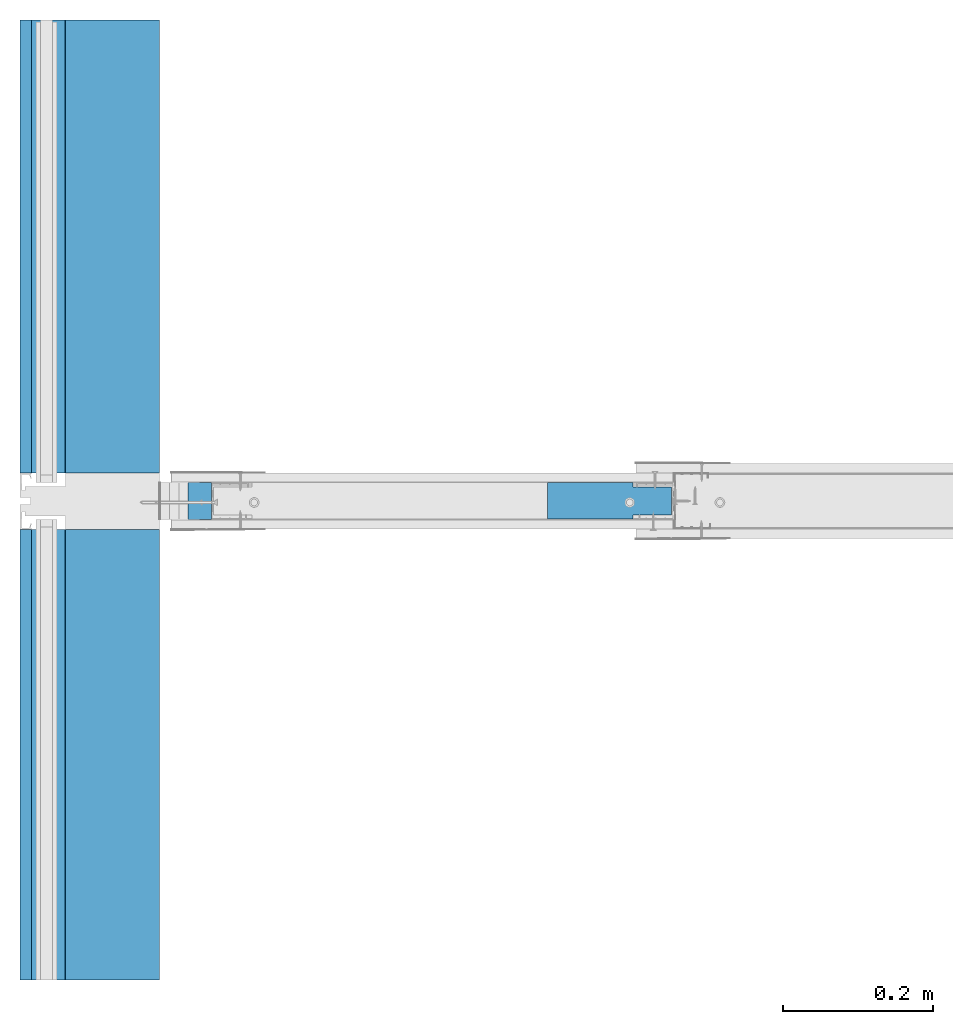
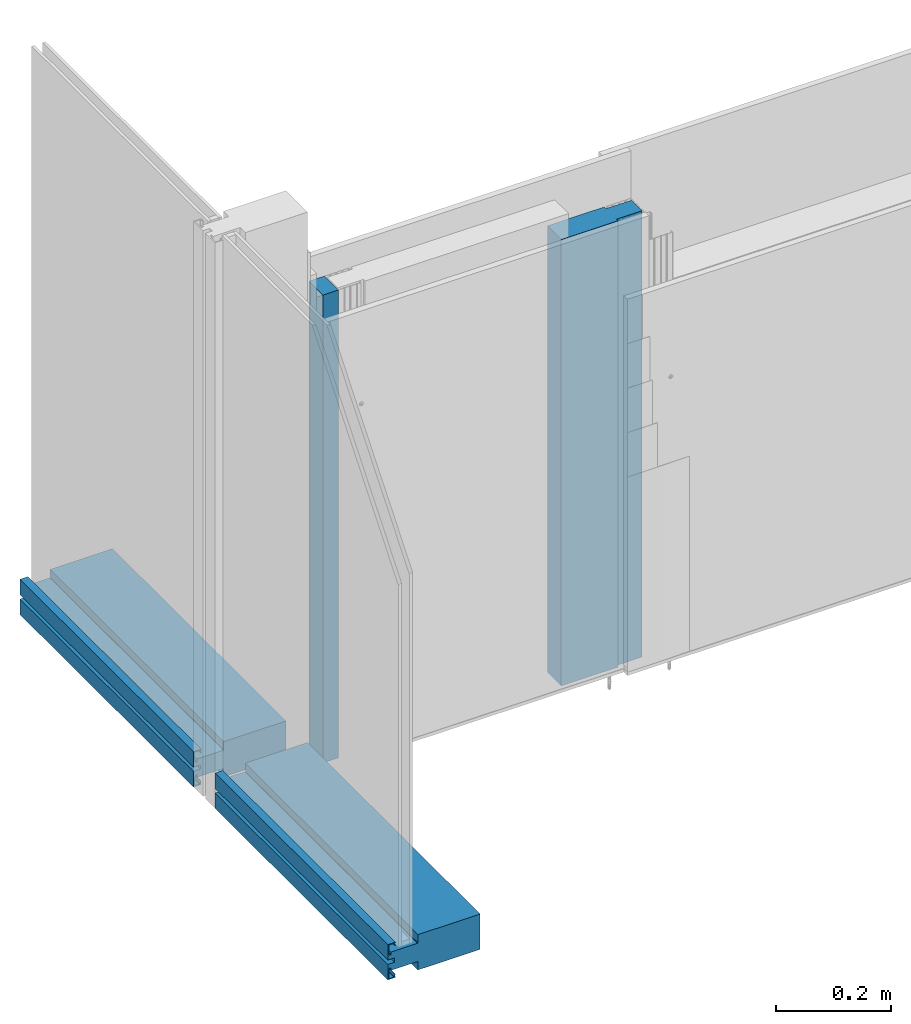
# One storey, part 4 of 42: 4 walls.
"""IFC2X3 building model written with IfcOpenShell, lengths in millimetres."""

from ifc_helpers import new_model, entity, si_unit, converted_unit, direction, frame, origin, origin_with_axes, place, context, project, spatial, faceted_brep, element, save


model = new_model("IFC2X3")

# Units and contexts
model_context = context("Model", 3, precision=1e-05, world=origin(), true_north=direction((0.0, 1.0, 0.0)))
ifc_project = project(units=[si_unit("LENGTHUNIT", "METRE", prefix="MILLI"), si_unit("AREAUNIT", "SQUARE_METRE"), si_unit("VOLUMEUNIT", "CUBIC_METRE"), converted_unit("PLANEANGLEUNIT", "DEGREE", entity("IfcPlaneAngleMeasure", 0.01745), si_unit("PLANEANGLEUNIT", "RADIAN"), dimensions=[0, 0, 0, 0, 0, 0, 0]), si_unit("SOLIDANGLEUNIT", "STERADIAN"), si_unit("MASSUNIT", "GRAM"), si_unit("TIMEUNIT", "SECOND"), si_unit("THERMODYNAMICTEMPERATUREUNIT", "DEGREE_CELSIUS"), si_unit("LUMINOUSINTENSITYUNIT", "LUMEN")], contexts=[model_context])

# Site, building, storey
site_placement = place(None, origin_with_axes())
site = spatial("IfcSite", under=ifc_project, at=site_placement, Name="Default Site", CompositionType="ELEMENT")
building_placement = place(site_placement, origin_with_axes())
building = spatial("IfcBuilding", under=site, at=building_placement, Name="Default Building", CompositionType="ELEMENT")
storey_placement = place(building_placement, origin_with_axes())
storey = spatial("IfcBuildingStorey", under=building, at=storey_placement, Name="Default Building Storey", CompositionType="ELEMENT", Elevation=0.0)

# Walls
wall_1_placement = place(storey_placement, frame((2831.260372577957, -1438.097225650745, 7.67454872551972), z_axis=(-6.858158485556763e-13, 7.620176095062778e-14, 1.0), x_axis=(-1.0, 5.338611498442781e-16, -6.858158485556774e-13)))
element("IfcWall", 1, at=wall_1_placement, inside=storey, Name="Wełna mineralna szklana lub skalna ISOVER", context=model_context, shape_type="Brep", body=[
    faceted_brep([(-161.2775660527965, -3473.633223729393, -2.075551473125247), (-161.2775660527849, -3473.633223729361, 944.7094770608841), (-109.9235473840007, -3473.633223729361, 944.7094770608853), (-109.9235473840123, -3473.633223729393, -2.07555147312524), (-109.9235473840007, -3479.633223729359, 944.7094770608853), (-109.9235473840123, -3479.633223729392, -2.075551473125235), (-161.2775660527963, -3436.833223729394, -2.075551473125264), (-161.2775660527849, -3436.83322372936, 944.7094770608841), (-109.9235473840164, -3436.833223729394, -2.075551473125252), (-109.9235473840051, -3436.83322372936, 944.7094770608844), (-109.9235473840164, -3431.283223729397, -2.075551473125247), (3.979796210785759, -3431.283223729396, -2.075551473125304), (3.979796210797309, -3431.283223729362, 944.7094770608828), (-109.9235473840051, -3431.283223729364, 944.7094770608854), (3.979796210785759, -3479.633223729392, -2.075551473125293), (3.97979621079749, -3479.633223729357, 944.7094770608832)], [[[0, 1, 2, 3]], [[3, 2, 4, 5]], [[1, 0, 6, 7]], [[7, 6, 8, 9]], [[10, 11, 12, 13]], [[9, 8, 10, 13]], [[3, 5, 14, 11, 10, 8, 6, 0]], [[4, 15, 14, 5]], [[15, 4, 2, 1, 7, 9, 13, 12]], [[14, 15, 12, 11]]]),
])
wall_2_placement = place(storey_placement, frame((2360.314282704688, 2016.879979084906, -185.4597315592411), z_axis=(-1.0, 5.82867087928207e-16, -8.068721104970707e-16), x_axis=(9.77677744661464e-16, -3.256321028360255e-31, -1.0)))
element("IfcWall", 2, at=wall_2_placement, inside=storey, Name="Wełna mineralna szklana lub skalna ISOVER", context=model_context, shape_type="Brep", body=[
    faceted_brep([(-195.4581498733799, -24.6461696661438, -19.6627632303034), (-195.4581498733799, 24.14398100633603, -19.66276323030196), (-1187.843757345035, 24.14398100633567, -19.66276323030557), (-1187.843757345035, -24.64616966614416, -19.66276323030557), (-195.45814987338, 24.14398100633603, 11.37091977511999), (-1187.843757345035, 24.14398100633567, 11.37091977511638), (-195.45814987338, -24.6461696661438, 11.37091977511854), (-1187.843757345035, -24.64616966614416, 11.37091977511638)], [[[0, 1, 2, 3]], [[1, 4, 5, 2]], [[4, 6, 7, 5]], [[6, 0, 3, 7]], [[7, 3, 2, 5]], [[0, 6, 4, 1]]]),
])
wall_3_placement = place(storey_placement, frame((2125.025133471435, 2054.549148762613, 75.00157344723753), z_axis=(9.892816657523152e-15, 1.0, -5.47225069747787e-14), x_axis=(-1.096458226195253e-13, -5.472250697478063e-14, -1.0)))
element("IfcWall", 3, at=wall_3_placement, inside=storey, Name="ELEWACJA", context=model_context, shape_type="Brep", body=[
    faceted_brep([(75.00157344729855, -1.110029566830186e-27, 602.9442692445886), (75.00157344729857, -15.00000000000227, 602.9442692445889), (74.50158889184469, -15.50000000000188, 602.9442692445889), (73.20158862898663, -15.50000000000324, 602.9442692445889), (73.50158862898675, -13.70000000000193, 602.9442692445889), (72.701589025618, -13.70000000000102, 602.9442692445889), (67.80680097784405, -15.48155715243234, 602.9442692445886), (67.39637680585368, -14.35392600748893, 602.9442692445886), (72.48999664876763, -12.5000000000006, 602.9442692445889), (72.90158889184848, -12.5000000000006, 602.9442692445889), (73.20158889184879, -12.20000000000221, 602.9442692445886), (73.20158889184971, -3.000000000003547, 602.9442692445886), (72.20158889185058, -2.000000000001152, 602.9442692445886), (68.75346226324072, -1.999999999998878, 602.9442692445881), (57.3015794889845, -2.500000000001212, 602.9442692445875), (52.30158250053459, -2.500000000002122, 602.9442692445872), (51.30158250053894, -3.500003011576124, 602.9442692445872), (51.30159153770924, -6.500816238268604, 602.9442692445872), (57.00160295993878, -6.500816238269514, 602.9442692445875), (57.00160295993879, -60.50081623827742, 602.9442692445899), (75.0007867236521, -60.50081623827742, 602.9442692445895), (75.0007867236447, -185.5008162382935, 602.9442692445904), (0.0007867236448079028, -185.5008162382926, 602.9442692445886), (0.0007867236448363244, -60.50081623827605, 602.9442692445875), (17.49997048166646, -60.50081623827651, 602.9442692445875), (17.99997048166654, -60.00081624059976, 602.9442692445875), (17.99997051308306, -6.500816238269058, 602.9442692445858), (23.69999094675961, -6.500816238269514, 602.9442692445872), (23.69999094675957, -3.500003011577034, 602.9442692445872), (22.69999094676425, -2.500000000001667, 602.9442692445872), (17.69999395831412, -2.500000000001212, 602.9442692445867), (6.248111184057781, -1.999999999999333, 602.9442692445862), (2.799984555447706, -2.000000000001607, 602.9442692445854), (1.799984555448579, -3.000000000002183, 602.9442692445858), (1.799984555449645, -12.20000000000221, 602.9442692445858), (2.099984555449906, -12.50000000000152, 602.9442692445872), (2.51157679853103, -12.50000000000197, 602.9442692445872), (7.605196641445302, -14.35392600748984, 602.9442692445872), (7.194772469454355, -15.48155715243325, 602.9442692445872), (2.299984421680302, -13.70000000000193, 602.9442692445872), (1.499984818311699, -13.70000000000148, 602.9442692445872), (1.799984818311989, -15.50000000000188, 602.9442692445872), (-4.263256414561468e-14, -15.50000000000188, 602.9442692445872), (-1.421085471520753e-14, -1.110029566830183e-27, 602.9442692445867), (32.99996582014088, -1.818989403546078e-12, 602.9442692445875), (32.99996582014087, -13.80000000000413, 602.9442692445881), (42.00157193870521, -13.80000000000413, 602.9442692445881), (42.00157193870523, -1.110029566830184e-27, 602.9442692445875), (7.605196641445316, -14.35392600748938, 9.094947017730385e-13), (7.194772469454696, -15.48155715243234, 9.094947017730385e-13), (0.0007867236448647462, -60.50081623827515, 9.094947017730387e-13), (17.49997048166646, -60.50081623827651, 9.094947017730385e-13), (57.00160295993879, -6.500816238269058, -3.335958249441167e-28), (57.0016029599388, -60.50081623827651, 9.094947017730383e-13), (6.248111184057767, -1.999999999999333, 4.547473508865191e-13), (2.799984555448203, -2.000000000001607, -9.629899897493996e-30), (23.69999094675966, -6.500816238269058, -4.547473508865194e-13), (23.69999094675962, -3.500003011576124, 4.547473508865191e-13), (75.00078672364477, -185.5008162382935, 9.094947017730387e-13), (0.0007867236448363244, -185.5008162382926, 7.457534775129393e-28), (2.51157679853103, -12.50000000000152, 4.547473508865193e-13), (52.3015825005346, -2.500000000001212, -4.547473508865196e-13), (51.30158250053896, -3.500003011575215, -4.547473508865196e-13), (1.799984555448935, -3.000000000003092, 7.012307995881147e-31), (51.30159153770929, -6.500816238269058, -4.547473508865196e-13), (2.299984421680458, -13.70000000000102, 4.547473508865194e-13), (72.20158889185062, -2.000000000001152, 9.094947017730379e-13), (68.75346226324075, -1.999999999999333, 4.547473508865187e-13), (17.99997048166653, -60.00081624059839, 9.094947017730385e-13), (17.99997051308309, -6.500816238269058, -4.547473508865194e-13), (1.799984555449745, -12.20000000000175, -9.094947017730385e-13), (2.099984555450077, -12.5000000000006, 4.547473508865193e-13), (1.499984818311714, -13.70000000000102, 4.547473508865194e-13), (57.30157948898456, -2.500000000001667, 4.547473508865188e-13), (17.69999395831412, -2.500000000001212, 4.547473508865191e-13), (22.69999094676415, -2.500000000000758, 4.547473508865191e-13), (75.00078672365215, -60.50081623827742, 9.09494701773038e-13), (73.20158889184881, -12.20000000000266, 9.094947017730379e-13), (73.20158889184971, -3.000000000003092, 9.094947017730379e-13), (72.90158889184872, -12.50000000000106, 1.364242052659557e-12), (32.99996582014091, -13.80000000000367, 9.094947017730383e-13), (42.00157193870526, -13.80000000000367, 9.094947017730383e-13), (73.50158862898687, -13.70000000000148, 1.364242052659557e-12), (72.70158902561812, -13.70000000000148, 1.364242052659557e-12), (67.8068009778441, -15.48155715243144, 9.09494701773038e-13), (67.39637680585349, -14.35392600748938, 9.09494701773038e-13), (73.20158862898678, -15.50000000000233, 1.364242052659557e-12), (42.00157193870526, -8.371967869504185e-43, 4.547473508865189e-13), (75.00157344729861, -1.674393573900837e-42, 9.094947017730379e-13), (74.50158889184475, -15.50000000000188, 1.364242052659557e-12), (32.99996582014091, -1.818989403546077e-12, -2.082590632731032e-28), (75.00157344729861, -15.00000000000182, 1.364242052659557e-12), (0.0, 0.0, 0.0), (3.105745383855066e-28, -15.50000000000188, 9.094947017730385e-13), (1.799984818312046, -15.50000000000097, 4.547473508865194e-13), (72.48999664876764, -12.50000000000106, 1.364242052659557e-12)], [[[0, 1, 2, 3, 4, 5, 6, 7, 8, 9, 10, 11, 12, 13, 14, 15, 16, 17, 18, 19, 20, 21, 22, 23, 24, 25, 26, 27, 28, 29, 30, 31, 32, 33, 34, 35, 36, 37, 38, 39, 40, 41, 42, 43, 44, 45, 46, 47]], [[37, 48, 49, 38]], [[23, 50, 51, 24]], [[18, 52, 53, 19]], [[31, 54, 55, 32]], [[27, 56, 57, 28]], [[21, 58, 59, 22]], [[36, 60, 48, 37]], [[22, 59, 50, 23]], [[15, 61, 62, 16]], [[32, 55, 63, 33]], [[16, 62, 64, 17]], [[38, 49, 65, 39]], [[12, 66, 67, 13]], [[25, 68, 69, 26]], [[33, 63, 70, 34]], [[24, 51, 68, 25]], [[34, 70, 71, 35]], [[26, 69, 56, 27]], [[39, 65, 72, 40]], [[17, 64, 52, 18]], [[14, 73, 61, 15]], [[13, 67, 73, 14]], [[30, 74, 54, 31]], [[28, 57, 75, 29]], [[19, 53, 76, 20]], [[29, 75, 74, 30]], [[20, 76, 58, 21]], [[35, 71, 60, 36]], [[10, 77, 78, 11]], [[9, 79, 77, 10]], [[45, 80, 81, 46]], [[4, 82, 83, 5]], [[6, 84, 85, 7]], [[3, 86, 82, 4]], [[47, 87, 88, 0]], [[46, 81, 87, 47]], [[2, 89, 86, 3]], [[44, 90, 80, 45]], [[1, 91, 89, 2]], [[5, 83, 84, 6]], [[90, 92, 93, 94, 72, 65, 49, 48, 60, 71, 70, 63, 55, 54, 74, 75, 57, 56, 69, 68, 51, 50, 59, 58, 76, 53, 52, 64, 62, 61, 73, 67, 66, 78, 77, 79, 95, 85, 84, 83, 82, 86, 89, 91, 88, 87, 81, 80]], [[7, 85, 95, 8]], [[40, 72, 94, 41]], [[41, 94, 93, 42]], [[0, 88, 91, 1]], [[42, 93, 92, 43]], [[43, 92, 90, 44]], [[11, 78, 66, 12]], [[8, 95, 79, 9]]]),
])
wall_4_placement = place(storey_placement, frame((2125.025133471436, 979.5491487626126, 75.00157344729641), z_axis=(9.892816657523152e-15, 1.0, -5.472250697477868e-14), x_axis=(-1.096458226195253e-13, -5.472250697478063e-14, -1.0)))
element("IfcWall", 4, at=wall_4_placement, inside=storey, Name="ELEWACJA", context=model_context, shape_type="Brep", body=[
    faceted_brep([(75.00078672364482, -185.5008162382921, 399.9996066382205), (75.00078672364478, -185.5008162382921, 999.9996066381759), (75.00078672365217, -60.50081623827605, 999.9996066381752), (75.0007867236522, -60.50081623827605, 399.9996066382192), (42.00157193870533, 1.364242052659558e-12, 399.9996066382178), (42.00157193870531, 1.818989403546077e-12, 999.9996066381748), (42.0015719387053, -13.80000000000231, 999.9996066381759), (42.00157193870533, -13.80000000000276, 399.999606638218), (32.99996582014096, -13.80000000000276, 999.9996066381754), (32.99996582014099, -13.80000000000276, 399.999606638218), (51.3015825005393, -3.50000301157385, 399.999606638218), (51.30158250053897, -3.500003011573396, 999.9996066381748), (52.30158250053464, -2.500000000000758, 999.9996066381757), (52.30158250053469, -2.500000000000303, 399.9996066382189), (72.4899966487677, -12.49999999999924, 399.9996066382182), (72.48999664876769, -12.49999999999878, 999.9996066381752), (67.3963768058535, -14.35392600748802, 999.9996066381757), (67.39637680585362, -14.35392600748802, 399.9996066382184), (57.00160295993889, -60.50081623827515, 399.9996066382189), (57.00160295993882, -60.50081623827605, 999.999606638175), (57.00160295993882, -6.500816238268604, 999.9996066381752), (57.00160295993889, -6.500816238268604, 399.9996066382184), (74.50158889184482, -15.50000000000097, 399.9996066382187), (74.50158889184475, -15.50000000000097, 999.9996066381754), (75.00157344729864, -15.00000000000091, 999.9996066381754), (75.0015734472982, -15.0, 399.9996066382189), (72.70158902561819, -13.70000000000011, 399.9996066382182), (72.70158902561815, -13.69999999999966, 999.9996066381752), (73.50158862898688, -13.70000000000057, 999.9996066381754), (73.50158862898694, -13.70000000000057, 399.9996066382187), (1.799984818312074, -15.49999999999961, 399.9996066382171), (1.79998481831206, -15.50000000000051, 999.9996066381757), (1.499984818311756, -13.69999999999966, 999.9996066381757), (1.499984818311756, -13.69999999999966, 399.9996066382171), (2.299984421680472, -13.69999999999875, 999.9996066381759), (2.299984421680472, -13.69999999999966, 399.9996066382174), (22.69999094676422, -2.499999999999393, 399.9996066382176), (22.69999094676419, -2.499999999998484, 999.9996066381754), (23.69999094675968, -3.50000301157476, 999.9996066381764), (23.6999909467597, -3.50000301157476, 399.9996066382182), (17.69999395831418, -2.499999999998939, 399.9996066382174), (17.69999395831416, -2.499999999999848, 999.9996066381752), (23.69999094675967, -6.500816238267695, 399.9996066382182), (23.69999094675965, -6.500816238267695, 999.9996066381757), (17.99997051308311, -6.500816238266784, 999.9996066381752), (17.99997051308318, -6.500816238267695, 399.9996066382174), (67.80680097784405, -15.48155715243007, 399.999606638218), (67.80680097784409, -15.48155715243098, 999.9996066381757), (7.194772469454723, -15.48155715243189, 999.9996066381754), (7.19477246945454, -15.48155715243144, 399.9996066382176), (1.799984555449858, -12.19999999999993, 399.9996066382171), (1.799984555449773, -12.20000000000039, 999.999606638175), (1.799984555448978, -3.000000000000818, 999.9996066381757), (1.799984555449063, -3.000000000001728, 399.9996066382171), (32.99996582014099, -9.094947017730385e-13, 399.9996066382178), (32.99996582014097, -4.547473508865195e-13, 999.9996066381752), (-2.733540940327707e-41, 1.364242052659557e-12, 999.9996066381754), (4.263256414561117e-14, 9.094947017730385e-13, 399.9996066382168), (57.30157948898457, -2.500000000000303, 999.9996066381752), (57.30157948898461, -2.499999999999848, 399.9996066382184), (4.263256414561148e-14, -15.50000000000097, 399.9996066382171), (4.263256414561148e-14, -15.50000000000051, 999.9996066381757), (68.7534622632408, -1.999999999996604, 399.9996066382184), (68.75346226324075, -1.999999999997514, 999.9996066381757), (72.2015888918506, -1.999999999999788, 999.9996066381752), (72.20158889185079, -1.999999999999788, 399.9996066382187), (75.00157344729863, 1.364242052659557e-12, 999.9996066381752), (73.2015886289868, -15.50000000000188, 999.9996066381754), (72.90158889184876, -12.49999999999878, 999.9996066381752), (73.20158889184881, -12.20000000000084, 999.9996066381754), (73.20158889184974, -3.000000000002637, 999.9996066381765), (51.30159153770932, -6.500816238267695, 999.9996066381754), (0.0007867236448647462, -185.5008162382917, 999.9996066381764), (0.0007867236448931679, -60.50081623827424, 999.9996066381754), (17.49997048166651, -60.50081623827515, 999.999606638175), (17.99997048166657, -60.00081624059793, 999.999606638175), (6.248111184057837, -1.999999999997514, 999.9996066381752), (2.799984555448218, -2.000000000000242, 999.9996066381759), (2.099984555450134, -12.50000000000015, 999.999606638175), (2.511576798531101, -12.50000000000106, 999.9996066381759), (7.605196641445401, -14.35392600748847, 999.9996066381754), (73.20158889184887, -12.2000000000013, 399.9996066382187), (72.90158889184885, -12.49999999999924, 399.9996066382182), (6.248111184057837, -1.999999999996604, 399.9996066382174), (73.20158889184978, -3.000000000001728, 399.9996066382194), (51.30159153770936, -6.500816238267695, 399.999606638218), (2.099984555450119, -12.50000000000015, 399.9996066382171), (2.799984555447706, -2.000000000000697, 399.999606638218), (17.49997048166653, -60.5008162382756, 399.9996066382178), (0.0007867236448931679, -60.50081623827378, 399.9996066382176), (73.20158862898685, -15.50000000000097, 399.9996066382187), (0.0007867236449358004, -185.5008162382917, 399.9996066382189), (75.00157344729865, 1.364242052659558e-12, 399.9996066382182), (17.99997048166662, -60.00081624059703, 399.9996066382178), (7.605196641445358, -14.35392600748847, 399.9996066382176), (2.511576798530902, -12.50000000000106, 399.9996066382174)], [[[0, 1, 2, 3]], [[4, 5, 6, 7]], [[7, 6, 8, 9]], [[10, 11, 12, 13]], [[14, 15, 16, 17]], [[18, 19, 20, 21]], [[22, 23, 24, 25]], [[26, 27, 28, 29]], [[30, 31, 32, 33]], [[33, 32, 34, 35]], [[3, 2, 19, 18]], [[36, 37, 38, 39]], [[40, 41, 37, 36]], [[42, 43, 44, 45]], [[46, 47, 27, 26]], [[35, 34, 48, 49]], [[50, 51, 52, 53]], [[54, 55, 56, 57]], [[13, 12, 58, 59]], [[60, 61, 31, 30]], [[62, 63, 64, 65]], [[56, 55, 8, 6, 5, 66, 24, 23, 67, 28, 27, 47, 16, 15, 68, 69, 70, 64, 63, 58, 12, 11, 71, 20, 19, 2, 1, 72, 73, 74, 75, 44, 43, 38, 37, 41, 76, 77, 52, 51, 78, 79, 80, 48, 34, 32, 31, 61]], [[81, 69, 68, 82]], [[83, 76, 41, 40]], [[84, 70, 69, 81]], [[21, 20, 71, 85]], [[86, 78, 51, 50]], [[87, 77, 76, 83]], [[39, 38, 43, 42]], [[88, 74, 73, 89]], [[53, 52, 77, 87]], [[29, 28, 67, 90]], [[91, 72, 1, 0]], [[59, 58, 63, 62]], [[92, 66, 5, 4]], [[17, 16, 47, 46]], [[45, 44, 75, 93]], [[94, 80, 79, 95]], [[25, 24, 66, 92]], [[90, 67, 23, 22]], [[93, 75, 74, 88]], [[85, 71, 11, 10]], [[56, 61, 60, 57]], [[65, 64, 70, 84]], [[9, 8, 55, 54]], [[82, 68, 15, 14]], [[89, 73, 72, 91]], [[49, 48, 80, 94]], [[95, 79, 78, 86]], [[0, 3, 18, 21, 85, 10, 13, 59, 62, 65, 84, 81, 82, 14, 17, 46, 26, 29, 90, 22, 25, 92, 4, 7, 9, 54, 57, 60, 30, 33, 35, 49, 94, 95, 86, 50, 53, 87, 83, 40, 36, 39, 42, 45, 93, 88, 89, 91]]]),
])

save(model, "model.ifc")
